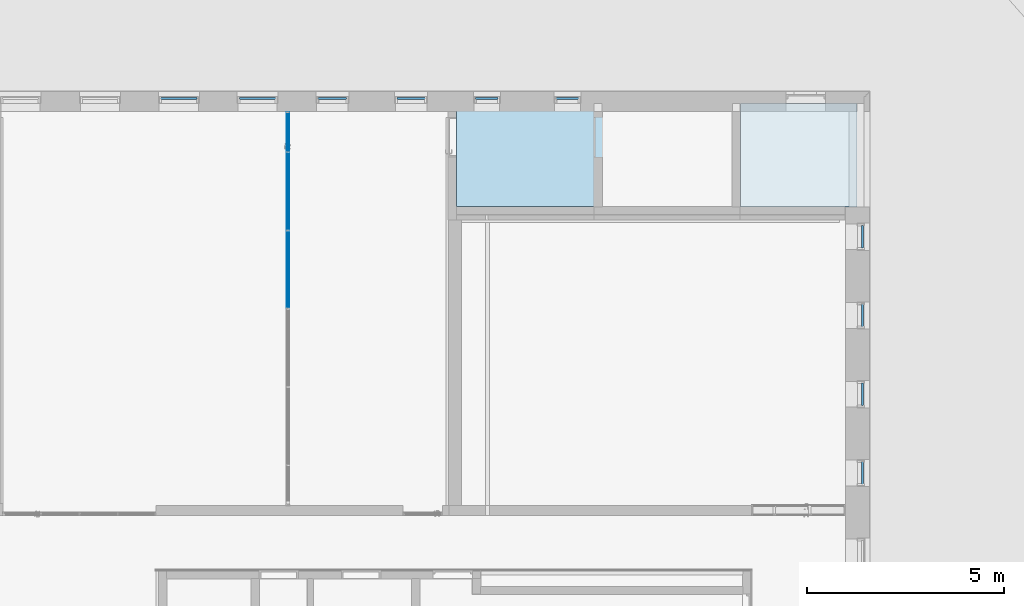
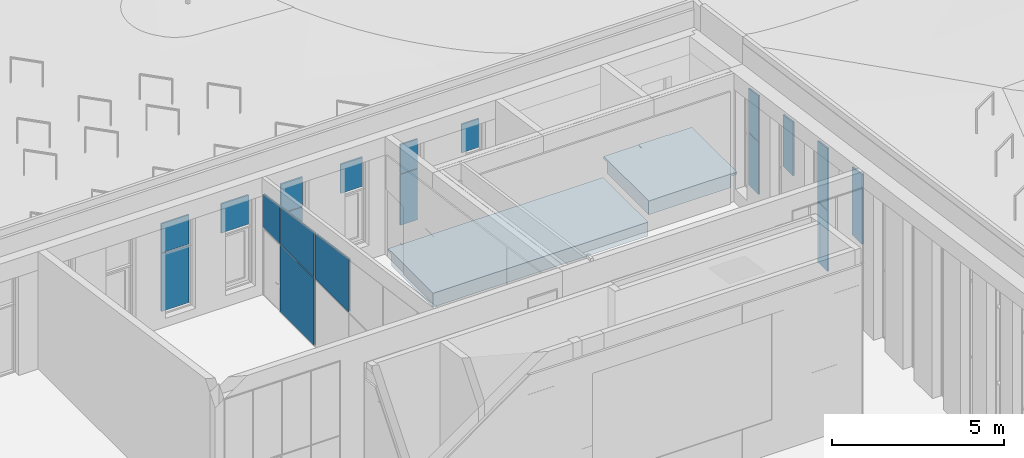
# One storey, part 104 of 246: 19 plates, 2 slabs, 11 elements without a shape of their own.
"""IFC2X3 building model written with IfcOpenShell, lengths in millimetres."""

from ifc_helpers import new_model, entity, si_unit, converted_unit, derived_unit, money_unit, direction, frame, origin_with_axes, place, context, subcontext, project, spatial, faceted_brep, material, material_list, type_object, element, aggregate, save


model = new_model("IFC2X3")

# Units and contexts
model_context = context("Model", 3, precision=0.01, world=origin_with_axes(), true_north=direction((0.0, 1.0)))
body_context = subcontext(model_context, "Body", "Model", "MODEL_VIEW")
ifc_project = project(units=[si_unit("LENGTHUNIT", "METRE", prefix="MILLI"), si_unit("AREAUNIT", "SQUARE_METRE"), si_unit("VOLUMEUNIT", "CUBIC_METRE"), converted_unit("PLANEANGLEUNIT", "DEGREE", entity("IfcPlaneAngleMeasure", 0.0174532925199), si_unit("PLANEANGLEUNIT", "RADIAN"), dimensions=[0, 0, 0, 0, 0, 0, 0]), si_unit("SOLIDANGLEUNIT", "STERADIAN"), money_unit("EUR"), converted_unit("TIMEUNIT", "Year", entity("IfcTimeMeasure", 31556926.0), si_unit("TIMEUNIT", "SECOND"), dimensions=[0, 0, 1, 0, 0, 0, 0]), si_unit("MASSUNIT", "GRAM", prefix="KILO"), si_unit("THERMODYNAMICTEMPERATUREUNIT", "DEGREE_CELSIUS"), si_unit("LUMINOUSINTENSITYUNIT", "LUMEN"), si_unit("ENERGYUNIT", "JOULE", prefix="MEGA"), derived_unit("THERMALCONDUCTANCEUNIT", [(si_unit("POWERUNIT", "WATT"), 1), (si_unit("LENGTHUNIT", "METRE"), -1), (si_unit("THERMODYNAMICTEMPERATUREUNIT", "KELVIN"), -1)]), derived_unit("SPECIFICHEATCAPACITYUNIT", [(si_unit("ENERGYUNIT", "JOULE"), 1), (si_unit("MASSUNIT", "GRAM", prefix="KILO"), -1), (si_unit("THERMODYNAMICTEMPERATUREUNIT", "KELVIN"), -1)]), derived_unit("MASSDENSITYUNIT", [(si_unit("MASSUNIT", "GRAM", prefix="KILO"), 1), (si_unit("VOLUMEUNIT", "CUBIC_METRE"), -1)])], contexts=[model_context])

# Site, building, storey
site_placement = place(None, origin_with_axes())
site = spatial("IfcSite", under=ifc_project, at=site_placement, Name="L.Koidula tn 11b", CompositionType="ELEMENT")
building_placement = place(site_placement, origin_with_axes())
building = spatial("IfcBuilding", under=site, at=building_placement, Name="Rakvere Riigigümnaasium", CompositionType="ELEMENT")
storey_placement = place(building_placement, origin_with_axes())
storey = spatial("IfcBuildingStorey", under=building, at=storey_placement, Name="1.korrus 0,00", CompositionType="ELEMENT", Elevation=0.0)

# Curtain wall, plate
curtain_wall_type = type_object("IfcCurtainWallType", Name="Curtain Wall Type", PredefinedType="NOTDEFINED")
curtain_wall_1_placement = place(storey_placement, frame((39944.5199736, 71934.4519938, 599.999957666), z_axis=(0.0, 0.0, 1.0), x_axis=(1.0, 0.0, 0.0)))
curtain_wall_1 = element("IfcCurtainWall", 1, at=curtain_wall_1_placement, inside=storey, type_object=curtain_wall_type, Name="KLF-08-10")
ifc_material_1 = material(Name="Klaaspakett 3x")
plate_type_1 = type_object("IfcPlateType", Name="Distinct Panel 576 x 1011 x 54", PredefinedType="CURTAIN_PANEL")
plate_1_placement = place(curtain_wall_1_placement, frame((0.0, 0.0, 2349.83093543), z_axis=(0.0, 0.0, 1.0), x_axis=(-1.0, 0.0, 0.0)))
plate_1 = element("IfcPlate", 2, at=plate_1_placement, type_object=plate_type_1, material=ifc_material_1, Name="KLF-08-10-Klaas", ObjectType="CURTAIN_PANEL", context=body_context, shape_type="Brep", body=[
    faceted_brep([(-287.999983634, 27.0, 492.830766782), (-287.999983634, -27.0, 492.830766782), (287.999973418, -27.0, 492.830766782), (287.999973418, 27.0, 492.830766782), (-287.999983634, 27.0, -517.830762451), (-287.999983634, -27.0, -517.830762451), (287.999989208, -27.0, -517.830762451), (287.999989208, 27.0, -517.830762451)], [[[0, 1, 2, 3]], [[4, 5, 1, 0]], [[1, 5, 6, 2]], [[3, 2, 6, 7]], [[0, 3, 7, 4]], [[7, 6, 5, 4]]]),
])
aggregate(curtain_wall_1, [plate_1])

curtain_wall_2_placement = place(storey_placement, frame((35969.5353612, 71934.4519938, 500.0), z_axis=(0.0, 0.0, 1.0), x_axis=(1.0, 0.0, 0.0)))
curtain_wall_2 = element("IfcCurtainWall", 3, at=curtain_wall_2_placement, inside=storey, type_object=curtain_wall_type, Name="KLF-08-08")
plate_type_2 = type_object("IfcPlateType", Name="Distinct Panel 726 x 1031 x 54", PredefinedType="CURTAIN_PANEL")
plate_2_placement = place(curtain_wall_2_placement, frame((0.0, 0.0, 2440.0000619), z_axis=(0.0, 0.0, 1.0), x_axis=(-1.0, 0.0, 0.0)))
plate_2 = element("IfcPlate", 4, at=plate_2_placement, type_object=plate_type_2, material=ifc_material_1, Name="KLF-08-08-Klaasid", ObjectType="CURTAIN_PANEL", context=body_context, shape_type="Brep", body=[
    faceted_brep([(-363.000065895, 27.0, 502.99994902), (-363.000065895, -27.0, 502.99994902), (363.000048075, -27.0, 502.99994902), (363.000048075, 27.0, 502.99994902), (-363.000065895, 27.0, -527.999955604), (-363.000065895, -27.0, -527.999955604), (363.000064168, -27.0, -527.999955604), (363.000064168, 27.0, -527.999955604)], [[[0, 1, 2, 3]], [[4, 5, 1, 0]], [[1, 5, 6, 2]], [[3, 2, 6, 7]], [[0, 3, 7, 4]], [[7, 6, 5, 4]]]),
])
aggregate(curtain_wall_2, [plate_2])

curtain_wall_3_placement = place(storey_placement, frame((33969.5426693, 71934.5046172, 450.0), z_axis=(0.0, 0.0, 1.0), x_axis=(1.0, 0.0, 0.0)))
curtain_wall_3 = element("IfcCurtainWall", 5, at=curtain_wall_3_placement, inside=storey, type_object=curtain_wall_type, Name="KLF-08-07")
plate_3_placement = place(curtain_wall_3_placement, frame((0.0, 0.0, 2489.830821), z_axis=(0.0, 0.0, 1.0), x_axis=(-1.0, 0.0, 0.0)))
plate_3 = element("IfcPlate", 6, at=plate_3_placement, type_object=plate_type_2, material=ifc_material_1, Name="KLF-08-07-Klaasid", ObjectType="CURTAIN_PANEL", context=body_context, shape_type="Brep", body=[
    faceted_brep([(-363.00355807, 27.0, 502.830714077), (-363.00355807, -27.0, 502.830714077), (363.003552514, -27.0, 502.830714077), (363.003552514, 27.0, 502.830714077), (-363.00355807, 27.0, -527.830720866), (-363.00355807, -27.0, -527.830720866), (363.003568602, -27.0, -527.830720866), (363.003568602, 27.0, -527.830720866)], [[[0, 1, 2, 3]], [[4, 5, 1, 0]], [[1, 5, 6, 2]], [[3, 2, 6, 7]], [[0, 3, 7, 4]], [[7, 6, 5, 4]]]),
])

curtain_wall_4_placement = place(storey_placement, frame((32069.763958, 71934.4519938, 400.0), z_axis=(0.0, 0.0, 1.0), x_axis=(1.0, 0.0, 0.0)))
curtain_wall_4 = element("IfcCurtainWall", 7, at=curtain_wall_4_placement, inside=storey, type_object=curtain_wall_type, Name="KLF-08-06")
plate_type_3 = type_object("IfcPlateType", Name="Distinct Panel 926 x 1031 x 54", PredefinedType="CURTAIN_PANEL")
plate_4_placement = place(curtain_wall_4_placement, frame((0.0, 0.0, 2540.00004522), z_axis=(0.0, 0.0, 1.0), x_axis=(-1.0, 0.0, 0.0)))
plate_4 = element("IfcPlate", 8, at=plate_4_placement, type_object=plate_type_3, material=ifc_material_1, Name="KLF-08-06-Klaasid", ObjectType="CURTAIN_PANEL", context=body_context, shape_type="Brep", body=[
    faceted_brep([(-463.00769297, 27.0, 502.999966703), (-463.00769297, -27.0, 502.999966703), (463.007698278, -27.0, 502.999966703), (463.007698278, 27.0, 502.999966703), (-463.00769297, 27.0, -527.999974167), (-463.00769297, -27.0, -527.999974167), (463.007698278, -27.0, -527.999974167), (463.007698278, 27.0, -527.999974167)], [[[0, 1, 2, 3]], [[4, 5, 1, 0]], [[1, 5, 6, 2]], [[3, 2, 6, 7]], [[0, 3, 7, 4]], [[7, 6, 5, 4]]]),
])
aggregate(curtain_wall_4, [plate_4])

curtain_wall_5_placement = place(storey_placement, frame((30069.5242165, 71934.4519938, 300.0), z_axis=(0.0, 0.0, 1.0), x_axis=(1.0, 0.0, 0.0)))
curtain_wall_5 = element("IfcCurtainWall", 9, at=curtain_wall_5_placement, inside=storey, type_object=curtain_wall_type, Name="KLF-08-05")
plate_5_placement = place(curtain_wall_5_placement, frame((0.0, 0.0, 2640.0000344), z_axis=(0.0, 0.0, 1.0), x_axis=(-1.0, 0.0, 0.0)))
plate_5 = element("IfcPlate", 10, at=plate_5_placement, type_object=plate_type_3, material=ifc_material_1, Name="KLF-08-05-Klaasid", ObjectType="CURTAIN_PANEL", context=body_context, shape_type="Brep", body=[
    faceted_brep([(-462.988781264, 27.0, 502.999956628), (-462.988781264, -27.0, 502.999956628), (462.988788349, -27.0, 502.999956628), (462.988788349, 27.0, 502.999956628), (-462.988781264, 27.0, -527.999963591), (-462.988781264, -27.0, -527.999963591), (462.988788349, -27.0, -527.999963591), (462.988788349, 27.0, -527.999963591)], [[[0, 1, 2, 3]], [[4, 5, 1, 0]], [[1, 5, 6, 2]], [[3, 2, 6, 7]], [[0, 3, 7, 4]], [[7, 6, 5, 4]]]),
])

curtain_wall_6_placement = place(storey_placement, frame((47433.9999935, 62420.4545024, 99.9999847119), z_axis=(0.0, 0.0, 1.0), x_axis=(1.0, 0.0, 0.0)))
curtain_wall_6 = element("IfcCurtainWall", 11, at=curtain_wall_6_placement, inside=storey, type_object=curtain_wall_type, Name="KLF-07-11")
plate_type_4 = type_object("IfcPlateType", Name="Distinct Panel 576 x 2391 x 54", PredefinedType="CURTAIN_PANEL")
plate_6_placement = place(curtain_wall_6_placement, frame((0.0, 1.10891278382e-05, 3540.48146483), z_axis=(0.0, 0.0, 1.0), x_axis=(0.0, 1.0, 0.0)))
plate_6 = element("IfcPlate", 12, at=plate_6_placement, type_object=plate_type_4, material=ifc_material_1, Name="KLF-07-11-Klaasid", ObjectType="CURTAIN_PANEL", context=body_context, shape_type="Brep", body=[
    faceted_brep([(-288.000150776, 27.0, 1244.11188465), (-288.000150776, -27.0, 1244.11188465), (288.000129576, -27.0, 1162.10477287), (288.000129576, 27.0, 1162.10477287), (-288.000150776, 27.0, -1228.48144763), (-288.000150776, -27.0, -1228.48144763), (288.000167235, -27.0, -1228.48144763), (288.000167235, 27.0, -1228.48144763)], [[[0, 1, 2, 3]], [[4, 5, 1, 0]], [[1, 5, 6, 2]], [[3, 2, 6, 7]], [[0, 3, 7, 4]], [[7, 6, 5, 4]]]),
])
aggregate(curtain_wall_6, [plate_6])

# Curtain wall, plates
curtain_wall_7_placement = place(storey_placement, frame((47433.9999935, 64420.454563, 200.0), z_axis=(0.0, 0.0, 1.0), x_axis=(1.0, 0.0, 0.0)))
curtain_wall_7 = element("IfcCurtainWall", 13, at=curtain_wall_7_placement, inside=storey, type_object=curtain_wall_type, Name="KLF-07-12")
plate_type_5 = type_object("IfcPlateType", Name="Distinct Panel 576 x 2106 x 54", PredefinedType="CURTAIN_PANEL")
plate_7_placement = place(curtain_wall_7_placement, frame((0.0, 0.0, 3298.10800074), z_axis=(0.0, 0.0, 1.0), x_axis=(0.0, 1.0, 0.0)))
plate_7 = element("IfcPlate", 14, at=plate_7_placement, type_object=plate_type_5, material=ifc_material_1, Name="KLF-07-12-Klaasid", ObjectType="CURTAIN_PANEL", context=body_context, shape_type="Brep", body=[
    faceted_brep([(-288.00016796, 27.0, 1101.73849698), (-288.00016796, -27.0, 1101.73849698), (288.000196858, -27.0, 1019.73125997), (288.000196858, 27.0, 1019.73125997), (-288.000201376, 27.0, -1086.10798896), (-288.000201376, -27.0, -1086.10798896), (288.000196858, -27.0, -1086.10798896), (288.000196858, 27.0, -1086.10798896)], [[[0, 1, 2, 3]], [[4, 5, 1, 0]], [[1, 5, 6, 2]], [[3, 2, 6, 7]], [[0, 3, 7, 4]], [[7, 6, 5, 4]]]),
])
plate_type_6 = type_object("IfcPlateType", Name="Distinct Panel 576 x 2151 x 54", PredefinedType="CURTAIN_PANEL")
plate_8_placement = place(curtain_wall_7_placement, frame((0.0, -3.10614893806e-05, 1100.0), z_axis=(0.0, 0.0, 1.0), x_axis=(0.0, 1.0, 0.0)))
plate_8 = element("IfcPlate", 15, at=plate_8_placement, type_object=plate_type_6, material=ifc_material_1, Name="KLF-07-12-Klaasid", ObjectType="CURTAIN_PANEL", context=body_context, shape_type="Brep", body=[
    faceted_brep([(-288.000165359, 27.0, 1088.0), (-288.000165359, -27.0, 1088.0), (288.000228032, -27.0, 1088.0), (288.000228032, 27.0, 1088.0), (-288.000296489, 27.0, -1063.0), (-288.000296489, -27.0, -1063.0), (288.000228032, -27.0, -1063.0), (288.000228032, 27.0, -1063.0)], [[[0, 1, 2, 3]], [[4, 5, 1, 0]], [[1, 5, 6, 2]], [[3, 2, 6, 7]], [[0, 3, 7, 4]], [[7, 6, 5, 4]]]),
])
aggregate(curtain_wall_7, [plate_7, plate_8])

# Curtain wall, plate
curtain_wall_8_placement = place(storey_placement, frame((47433.9999935, 66420.454682, 350.000073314), z_axis=(0.0, 0.0, 1.0), x_axis=(1.0, 0.0, 0.0)))
curtain_wall_8 = element("IfcCurtainWall", 16, at=curtain_wall_8_placement, inside=storey, type_object=curtain_wall_type, Name="KLF-07-13")
plate_type_7 = type_object("IfcPlateType", Name="Distinct Panel 576 x 1821 x 54", PredefinedType="CURTAIN_PANEL")
plate_9_placement = place(curtain_wall_8_placement, frame((0.0, 0.0, 3005.73440963), z_axis=(0.0, 0.0, 1.0), x_axis=(0.0, 1.0, 0.0)))
plate_9 = element("IfcPlate", 17, at=plate_9_placement, type_object=plate_type_7, material=ifc_material_1, Name="KLF-07-13-Klaasid", ObjectType="CURTAIN_PANEL", context=body_context, shape_type="Brep", body=[
    faceted_brep([(-287.999945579, 27.0, 959.364916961), (-287.999945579, -27.0, 959.364916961), (288.000052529, -27.0, 877.357818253), (288.000052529, 27.0, 877.357818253), (-288.000149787, 27.0, -943.734495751), (-288.000149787, -27.0, -943.734495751), (288.000052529, -27.0, -943.734495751), (288.000052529, 27.0, -943.734495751)], [[[0, 1, 2, 3]], [[4, 5, 1, 0]], [[1, 5, 6, 2]], [[3, 2, 6, 7]], [[0, 3, 7, 4]], [[7, 6, 5, 4]]]),
])
aggregate(curtain_wall_8, [plate_9])

# Curtain wall, plates
curtain_wall_9_placement = place(storey_placement, frame((47433.9999935, 68420.4546651, 500.0), z_axis=(0.0, 0.0, 1.0), x_axis=(1.0, 0.0, 0.0)))
curtain_wall_9 = element("IfcCurtainWall", 18, at=curtain_wall_9_placement, inside=storey, type_object=curtain_wall_type, Name="KLF-07-14")
plate_type_8 = type_object("IfcPlateType", Name="Distinct Panel 576 x 1536 x 54", PredefinedType="CURTAIN_PANEL")
plate_10_placement = place(curtain_wall_9_placement, frame((0.0, 0.0, 2713.36100601), z_axis=(0.0, 0.0, 1.0), x_axis=(0.0, 1.0, 0.0)))
plate_10 = element("IfcPlate", 19, at=plate_10_placement, type_object=plate_type_8, material=ifc_material_1, Name="KLF-07-14-Klaasid", ObjectType="CURTAIN_PANEL", context=body_context, shape_type="Brep", body=[
    faceted_brep([(-287.999952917, 27.0, 816.991467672), (-287.999952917, -27.0, 816.991467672), (288.00006258, -27.0, 734.984307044), (288.00006258, 27.0, 734.984307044), (-288.000152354, 27.0, -801.361008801), (-288.000152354, -27.0, -801.361008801), (288.00006258, -27.0, -801.361008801), (288.00006258, 27.0, -801.361008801)], [[[0, 1, 2, 3]], [[4, 5, 1, 0]], [[1, 5, 6, 2]], [[3, 2, 6, 7]], [[0, 3, 7, 4]], [[7, 6, 5, 4]]]),
])
plate_type_9 = type_object("IfcPlateType", Name="Distinct Panel 576 x 1851 x 54", PredefinedType="CURTAIN_PANEL")
plate_11_placement = place(curtain_wall_9_placement, frame((0.0, -9.89106041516e-05, 950.0), z_axis=(0.0, 0.0, 1.0), x_axis=(0.0, 1.0, 0.0)))
plate_11 = element("IfcPlate", 20, at=plate_11_placement, type_object=plate_type_9, material=ifc_material_1, Name="KLF-07-14-Klaasid", ObjectType="CURTAIN_PANEL", context=body_context, shape_type="Brep", body=[
    faceted_brep([(-288.000074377, 27.0, 938.00000149), (-288.000074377, -27.0, 938.00000149), (288.000165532, -27.0, 938.00000149), (288.000165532, 27.0, 938.00000149), (-288.000300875, 27.0, -912.999988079), (-288.000300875, -27.0, -912.999988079), (288.000193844, -27.0, -912.999988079), (288.000193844, 27.0, -912.999988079)], [[[0, 1, 2, 3]], [[4, 5, 1, 0]], [[1, 5, 6, 2]], [[3, 2, 6, 7]], [[0, 3, 7, 4]], [[7, 6, 5, 4]]]),
])
aggregate(curtain_wall_9, [plate_10, plate_11])

# Plate
plate_type_10 = type_object("IfcPlateType", Name="Distinct Panel 926 x 2051 x 54", PredefinedType="CURTAIN_PANEL")
plate_12_placement = place(curtain_wall_5_placement, frame((-1.73954006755e-06, 0.0, 1050.00003856), z_axis=(0.0, 0.0, 1.0), x_axis=(-1.0, 0.0, 0.0)))
plate_12 = element("IfcPlate", 21, at=plate_12_placement, type_object=plate_type_10, material=ifc_material_1, Name="KLF-08-05-Klaasid", ObjectType="CURTAIN_PANEL", context=body_context, shape_type="Brep", body=[
    faceted_brep([(-462.988802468, 27.0, 1038.00003365), (-462.988802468, -27.0, 1038.00003365), (462.98879037, -27.0, 1038.00003365), (462.98879037, 27.0, 1038.00003365), (-462.988771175, 27.0, -1013.00004167), (-462.988771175, -27.0, -1013.00004167), (462.98879037, -27.0, -1013.00004167), (462.98879037, 27.0, -1013.00004167)], [[[0, 1, 2, 3]], [[4, 5, 1, 0]], [[1, 5, 6, 2]], [[3, 2, 6, 7]], [[0, 3, 7, 4]], [[7, 6, 5, 4]]]),
])

aggregate(curtain_wall_5, [plate_5, plate_12])

plate_type_11 = type_object("IfcPlateType", Name="Distinct Panel 726 x 1901 x 54", PredefinedType="CURTAIN_PANEL")
plate_13_placement = place(curtain_wall_3_placement, frame((8.93983553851e-07, 0.0, 975.000051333), z_axis=(0.0, 0.0, 1.0), x_axis=(-1.0, 0.0, 0.0)))
plate_13 = element("IfcPlate", 22, at=plate_13_placement, type_object=plate_type_11, material=ifc_material_1, Name="KLF-08-07-Klaasid", ObjectType="CURTAIN_PANEL", context=body_context, shape_type="Brep", body=[
    faceted_brep([(-363.003558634, 27.0, 963.000057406), (-363.003558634, -27.0, 963.000057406), (363.003585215, -27.0, 963.000057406), (363.003585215, 27.0, 963.000057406), (-363.003587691, 27.0, -938.000062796), (-363.003587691, -27.0, -938.000062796), (363.003585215, -27.0, -938.000062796), (363.003585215, 27.0, -938.000062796)], [[[0, 1, 2, 3]], [[4, 5, 1, 0]], [[1, 5, 6, 2]], [[3, 2, 6, 7]], [[0, 3, 7, 4]], [[7, 6, 5, 4]]]),
])

aggregate(curtain_wall_3, [plate_3, plate_13])

# Curtain wall, plates
curtain_wall_10_placement = place(storey_placement, frame((37894.5353831, 71934.4519938, 550.0), z_axis=(0.0, 0.0, 1.0), x_axis=(1.0, 0.0, 0.0)))
curtain_wall_10 = element("IfcCurtainWall", 23, at=curtain_wall_10_placement, inside=storey, type_object=curtain_wall_type, Name="KLF-08-09")
plate_type_12 = type_object("IfcPlateType", Name="Distinct Panel 576 x 1031 x 54", PredefinedType="CURTAIN_PANEL")
plate_14_placement = place(curtain_wall_10_placement, frame((0.0, 0.0, 2390.00000699), z_axis=(0.0, 0.0, 1.0), x_axis=(-1.0, 0.0, 0.0)))
plate_14 = element("IfcPlate", 24, at=plate_14_placement, type_object=plate_type_12, material=ifc_material_1, Name="KLF-08-09-Klaasid", ObjectType="CURTAIN_PANEL", context=body_context, shape_type="Brep", body=[
    faceted_brep([(-288.000081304, 27.0, 502.999886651), (-288.000081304, -27.0, 502.999886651), (288.00008267, -27.0, 502.999886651), (288.00008267, 27.0, 502.999886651), (-288.000081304, 27.0, -527.999890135), (-288.000081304, -27.0, -527.999890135), (288.000098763, -27.0, -527.999890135), (288.000098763, 27.0, -527.999890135)], [[[0, 1, 2, 3]], [[4, 5, 1, 0]], [[1, 5, 6, 2]], [[3, 2, 6, 7]], [[0, 3, 7, 4]], [[7, 6, 5, 4]]]),
])
plate_type_13 = type_object("IfcPlateType", Name="Distinct Panel 576 x 1801 x 54", PredefinedType="CURTAIN_PANEL")
plate_15_placement = place(curtain_wall_10_placement, frame((-9.22042175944e-06, 0.0, 925.000062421), z_axis=(0.0, 0.0, 1.0), x_axis=(-1.0, 0.0, 0.0)))
plate_15 = element("IfcPlate", 25, at=plate_15_placement, type_object=plate_type_13, material=ifc_material_1, Name="KLF-08-09-Klaasid", ObjectType="CURTAIN_PANEL", context=body_context, shape_type="Brep", body=[
    faceted_brep([(-288.000106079, 27.0, 913.000070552), (-288.000106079, -27.0, 913.000070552), (288.000082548, -27.0, 913.000070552), (288.000082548, 27.0, 913.000070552), (-288.000078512, 27.0, -888.000059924), (-288.000078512, -27.0, -888.000059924), (288.000082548, -27.0, -888.000059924), (288.000082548, 27.0, -888.000059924)], [[[0, 1, 2, 3]], [[4, 5, 1, 0]], [[1, 5, 6, 2]], [[3, 2, 6, 7]], [[0, 3, 7, 4]], [[7, 6, 5, 4]]]),
])
aggregate(curtain_wall_10, [plate_14, plate_15])

curtain_wall_11_placement = place(storey_placement, frame((32835.0202258, 67589.2016838, 0.0), z_axis=(0.0, 0.0, 1.0), x_axis=(1.0, 0.0, 0.0)))
curtain_wall_11 = element("IfcCurtainWall", 26, at=curtain_wall_11_placement, inside=storey, type_object=curtain_wall_type, Name="SKLF-02")
ifc_material_2 = material(Name="VKR-05_Klaas")
plate_type_14 = type_object("IfcPlateType", Name="Siseklaasfassaad - Klaas-Doubleline30 1953 x 1307 x 17", PredefinedType="CURTAIN_PANEL")
plate_16_placement = place(curtain_wall_11_placement, frame((0.0, 1987.5, 3139.06091672), z_axis=(0.0, 0.0, 1.0), x_axis=(0.0, 1.0, 0.0)))
plate_16 = element("IfcPlate", 27, at=plate_16_placement, type_object=plate_type_14, material=ifc_material_2, Name="Panel-Siseklaasf-025", ObjectType="CURTAIN_PANEL", context=body_context, shape_type="Brep", body=[
    faceted_brep([(-976.74998156, -37.0, 862.954447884), (976.74998156, -37.0, 584.864937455), (976.74998156, -25.0, 584.864937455), (-976.74998156, -25.0, 862.954447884), (-976.74998156, -37.0, -722.060898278), (976.74998156, -37.0, -722.060898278), (976.74998156, -25.0, -722.060898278), (-976.74998156, -25.0, -722.060898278)], [[[0, 1, 2, 3]], [[0, 4, 5, 1]], [[1, 5, 6, 2]], [[3, 2, 6, 7]], [[4, 0, 3, 7]], [[5, 4, 7, 6]]]),
    faceted_brep([(-976.74998156, 15.0, 862.954447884), (976.74998156, 15.0, 584.864937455), (976.74998156, 27.0, 584.864937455), (-976.74998156, 27.0, 862.954447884), (-976.74998156, 15.0, -722.060898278), (976.74998156, 15.0, -722.060898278), (976.74998156, 27.0, -722.060898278), (-976.74998156, 27.0, -722.060898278)], [[[0, 1, 2, 3]], [[0, 4, 5, 1]], [[1, 5, 6, 2]], [[3, 2, 6, 7]], [[4, 0, 3, 7]], [[5, 4, 7, 6]]]),
])
plate_type_15 = type_object("IfcPlateType", Name="Siseklaasfassaad - Klaas-Doubleline30 1970 x 2368 x 17", PredefinedType="CURTAIN_PANEL")
plate_17_placement = place(curtain_wall_11_placement, frame((0.0, 1987.5, 1200.0), z_axis=(0.0, 0.0, 1.0), x_axis=(0.0, 1.0, 0.0)))
plate_17 = element("IfcPlate", 28, at=plate_17_placement, type_object=plate_type_15, material=ifc_material_2, Name="Panel-Siseklaasf-038", ObjectType="CURTAIN_PANEL", context=body_context, shape_type="Brep", body=[
    faceted_brep([(-976.749964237, -37.0, 1182.99996424), (993.75, -37.0, 1182.99996424), (993.75, -25.0, 1182.99996424), (-976.749964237, -25.0, 1182.99996424), (-976.749964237, -37.0, -1185.0), (993.75, -37.0, -1185.0), (993.75, -25.0, -1185.0), (-976.749964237, -25.0, -1185.0)], [[[0, 1, 2, 3]], [[0, 4, 5, 1]], [[1, 5, 6, 2]], [[3, 2, 6, 7]], [[4, 0, 3, 7]], [[5, 4, 7, 6]]]),
    faceted_brep([(-976.749964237, 15.0, 1182.99996424), (993.75, 15.0, 1182.99996424), (993.75, 27.0, 1182.99996424), (-976.749964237, 27.0, 1182.99996424), (-976.749964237, 15.0, -1185.0), (993.75, 15.0, -1185.0), (993.75, 27.0, -1185.0), (-976.749964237, 27.0, -1185.0)], [[[0, 1, 2, 3]], [[0, 4, 5, 1]], [[1, 5, 6, 2]], [[3, 2, 6, 7]], [[4, 0, 3, 7]], [[5, 4, 7, 6]]]),
])
plate_type_16 = type_object("IfcPlateType", Name="Siseklaasfassaad - Klaas-Doubleline30 998 x 1162 x 17", PredefinedType="CURTAIN_PANEL")
plate_18_placement = place(curtain_wall_11_placement, frame((0.0, 3496.25, 3031.67224359), z_axis=(0.0, 0.0, 1.0), x_axis=(0.0, 1.0, 0.0)))
plate_18 = element("IfcPlate", 29, at=plate_18_placement, type_object=plate_type_16, material=ifc_material_2, Name="Panel-Siseklaasf-024", ObjectType="CURTAIN_PANEL", context=body_context, shape_type="Brep", body=[
    faceted_brep([(-497.999989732, -37.0, 687.413563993), (499.999993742, -37.0, 545.343758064), (499.999993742, -25.0, 545.343758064), (-497.999989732, -25.0, 687.413563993), (-497.999989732, -37.0, -616.672237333), (499.999993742, -37.0, -616.672237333), (499.999993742, -25.0, -616.672237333), (-497.999989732, -25.0, -616.672237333)], [[[0, 1, 2, 3]], [[0, 4, 5, 1]], [[1, 5, 6, 2]], [[3, 2, 6, 7]], [[4, 0, 3, 7]], [[5, 4, 7, 6]]]),
    faceted_brep([(-497.999989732, 15.0, 687.413563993), (499.999993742, 15.0, 545.343758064), (499.999993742, 27.0, 545.343758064), (-497.999989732, 27.0, 687.413563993), (-497.999989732, 15.0, -616.672237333), (499.999993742, 15.0, -616.672237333), (499.999993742, 27.0, -616.672237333), (-497.999989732, 27.0, -616.672237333)], [[[0, 1, 2, 3]], [[0, 4, 5, 1]], [[1, 5, 6, 2]], [[3, 2, 6, 7]], [[4, 0, 3, 7]], [[5, 4, 7, 6]]]),
])
plate_type_17 = type_object("IfcPlateType", Name="Siseklaasfassaad - Klaas-Doubleline30 1953 x 1590 x 17", PredefinedType="CURTAIN_PANEL")
plate_19_placement = place(curtain_wall_11_placement, frame((0.0, 0.0, 3280.52569276), z_axis=(0.0, 0.0, 1.0), x_axis=(0.0, 1.0, 0.0)))
plate_19 = element("IfcPlate", 30, at=plate_19_placement, type_object=plate_type_17, material=ifc_material_2, Name="Panel-Siseklaasf-026", ObjectType="CURTAIN_PANEL", context=body_context, shape_type="Brep", body=[
    faceted_brep([(-976.74998156, -37.0, 1004.41922077), (976.74998156, -37.0, 726.329710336), (976.74998156, -25.0, 726.329710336), (-976.74998156, -25.0, 1004.41922077), (-976.74998156, -37.0, -863.525674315), (976.74998156, -37.0, -863.525674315), (976.74998156, -25.0, -863.525674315), (-976.74998156, -25.0, -863.525674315)], [[[0, 1, 2, 3]], [[0, 4, 5, 1]], [[1, 5, 6, 2]], [[3, 2, 6, 7]], [[4, 0, 3, 7]], [[5, 4, 7, 6]]]),
    faceted_brep([(-976.74998156, 15.0, 1004.41922077), (976.74998156, 15.0, 726.329710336), (976.74998156, 27.0, 726.329710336), (-976.74998156, 27.0, 1004.41922077), (-976.74998156, 15.0, -863.525674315), (976.74998156, 15.0, -863.525674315), (976.74998156, 27.0, -863.525674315), (-976.74998156, 27.0, -863.525674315)], [[[0, 1, 2, 3]], [[0, 4, 5, 1]], [[1, 5, 6, 2]], [[3, 2, 6, 7]], [[4, 0, 3, 7]], [[5, 4, 7, 6]]]),
])
aggregate(curtain_wall_11, [plate_16, plate_17, plate_18, plate_19])

# Slabs
ifc_material_3 = material(Name="Parkett")
ifc_material_4 = material(Name="Betoon element / plaat")
ifc_material_5 = material(Name="Soojustus - EPS")
ifc_material_6 = material(Name="Killustik")
ifc_material_list_1 = material_list([ifc_material_3, ifc_material_4, ifc_material_5, ifc_material_5, ifc_material_6])
slab_type_1 = type_object("IfcSlabType", Name="PP-01 490", PredefinedType="NOTDEFINED")
slab_1_placement = place(storey_placement, frame((44339.5354275, 71800.4516838, 750.0), z_axis=(0.0, 0.0, 1.0), x_axis=(1.0, 0.0, 0.0)))
element("IfcSlab", 31, at=slab_1_placement, inside=storey, type_object=slab_type_1, material=ifc_material_list_1, Name="Põrand pinnasel", PredefinedType="NOTDEFINED", context=body_context, shape_type="Brep", body=[
    faceted_brep([(2659.49942555, -2620.02038252, 0.0), (2659.49942555, -2621.32038252, 0.0), (2660.46456602, -2621.32038252, 0.0), (2660.46456602, -2620.02038252, 0.0), (2760.46456602, -2620.02038252, 0.0), (2760.46456602, -200.0, 0.0), (2160.46456602, -200.0, 0.0), (2160.46456602, 0.0, 0.0), (1160.46456602, 0.0, 0.0), (1160.46456602, -200.0, 0.0), (0.0, -200.0, 0.0), (0.0, -2620.02038252, 0.0), (2659.49942555, -2620.02038252, -10.0), (2659.49942555, -2621.32038252, -10.0), (2660.46456602, -2621.32038252, -10.0), (2660.46456602, -2620.02038252, -10.0), (2760.46456602, -2620.02038252, -10.0), (2760.46456602, -200.0, -10.0), (2160.46456602, -200.0, -10.0), (2160.46456602, 0.0, -10.0), (1160.46456602, 0.0, -10.0), (1160.46456602, -200.0, -10.0), (0.0, -200.0, -10.0), (0.0, -2620.02038252, -10.0)], [[[0, 1, 2, 3, 4, 5, 6, 7, 8, 9, 10, 11]], [[1, 0, 12, 13]], [[1, 13, 14, 2]], [[3, 2, 14, 15]], [[16, 4, 3, 15]], [[4, 16, 17, 5]], [[5, 17, 18, 6]], [[19, 7, 6, 18]], [[20, 8, 7, 19]], [[9, 8, 20, 21]], [[10, 9, 21, 22]], [[23, 11, 10, 22]], [[0, 11, 23, 12]], [[12, 23, 22, 21, 20, 19, 18, 17, 16, 15, 14, 13]]]),
    faceted_brep([(0.0, 0.0, -90.0), (0.0, -2621.32038252, -90.0), (0.0, -2621.32038252, -10.0), (0.0, 0.0, -10.0), (2960.46456602, 0.0, -90.0), (2960.46456602, -2621.32038252, -90.0), (2960.46456602, -2621.32038252, -10.0), (2960.46456602, 0.0, -10.0)], [[[0, 1, 2, 3]], [[1, 0, 4, 5]], [[1, 5, 6, 2]], [[7, 3, 2, 6]], [[4, 0, 3, 7]], [[5, 4, 7, 6]]]),
    faceted_brep([(2659.49942555, -2620.02038252, -90.0), (2659.49942555, -2621.32038252, -90.0), (2660.46456602, -2621.32038252, -90.0), (2660.46456602, -2620.02038252, -90.0), (2760.46456602, -2620.02038252, -90.0), (2760.46456602, -200.0, -90.0), (0.0, -200.0, -90.0), (0.0, -2620.02038252, -90.0), (2659.49942555, -2620.02038252, -190.0), (2659.49942555, -2621.32038252, -190.0), (2660.46456602, -2621.32038252, -190.0), (2660.46456602, -2620.02038252, -190.0), (2760.46456602, -2620.02038252, -190.0), (2760.46456602, -200.0, -190.0), (0.0, -200.0, -190.0), (0.0, -2620.02038252, -190.0)], [[[0, 1, 2, 3, 4, 5, 6, 7]], [[1, 0, 8, 9]], [[1, 9, 10, 2]], [[3, 2, 10, 11]], [[12, 4, 3, 11]], [[4, 12, 13, 5]], [[5, 13, 14, 6]], [[15, 7, 6, 14]], [[0, 7, 15, 8]], [[8, 15, 14, 13, 12, 11, 10, 9]]]),
    faceted_brep([(2659.49942555, -2620.02038252, -190.0), (2659.49942555, -2621.32038252, -190.0), (2660.46456602, -2621.32038252, -190.0), (2660.46456602, -2620.02038252, -190.0), (2760.46456602, -2620.02038252, -190.0), (2760.46456602, -200.0, -190.0), (0.0, -200.0, -190.0), (0.0, -2620.02038252, -190.0), (2659.49942555, -2620.02038252, -290.0), (2659.49942555, -2621.32038252, -290.0), (2660.46456602, -2621.32038252, -290.0), (2660.46456602, -2620.02038252, -290.0), (2760.46456602, -2620.02038252, -290.0), (2760.46456602, -200.0, -290.0), (0.0, -200.0, -290.0), (0.0, -2620.02038252, -290.0)], [[[0, 1, 2, 3, 4, 5, 6, 7]], [[1, 0, 8, 9]], [[1, 9, 10, 2]], [[3, 2, 10, 11]], [[12, 4, 3, 11]], [[4, 12, 13, 5]], [[5, 13, 14, 6]], [[15, 7, 6, 14]], [[0, 7, 15, 8]], [[8, 15, 14, 13, 12, 11, 10, 9]]]),
    faceted_brep([(2659.49942555, -2620.02038252, -290.0), (2659.49942555, -2621.32038252, -290.0), (2660.46456602, -2621.32038252, -290.0), (2660.46456602, -2620.02038252, -290.0), (2760.46456602, -2620.02038252, -290.0), (2760.46456602, -200.0, -290.0), (0.0, -200.0, -290.0), (0.0, -200.01942999, -290.0), (0.499421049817, -200.019533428, -290.0), (0.0, -2611.34212964, -290.0), (0.0, -2620.02038252, -290.0), (2659.49942555, -2620.02038252, -490.0), (2659.49942555, -2621.32038252, -490.0), (2660.46456602, -2621.32038252, -490.0), (2660.46456602, -2620.02038252, -490.0), (2760.46456602, -2620.02038252, -490.0), (2760.46456602, -200.0, -490.0), (0.0, -200.0, -490.0), (0.0, -200.01942999, -490.0), (0.499421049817, -200.019533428, -490.0), (0.0, -2611.34212964, -490.0), (0.0, -2620.02038252, -490.0)], [[[0, 1, 2, 3, 4, 5, 6, 7, 8, 9, 10]], [[1, 0, 11, 12]], [[1, 12, 13, 2]], [[14, 3, 2, 13]], [[14, 15, 4, 3]], [[5, 4, 15, 16]], [[17, 6, 5, 16]], [[7, 6, 17, 18]], [[7, 18, 19, 8]], [[8, 19, 20, 9]], [[21, 10, 9, 20]], [[0, 10, 21, 11]], [[11, 21, 20, 19, 18, 17, 16, 15, 14, 13, 12]]]),
])
ifc_material_7 = material(Name="Betoon - pealevalu")
ifc_material_list_2 = material_list([ifc_material_7, ifc_material_4, ifc_material_5, ifc_material_5, ifc_material_6])
slab_type_2 = type_object("IfcSlabType", Name="PP-01-5 490", PredefinedType="NOTDEFINED")
slab_2_placement = place(storey_placement, frame((37129.9971542, 69190.4313013, 0.0), z_axis=(0.0, 0.0, 1.0), x_axis=(1.0, 0.0, 0.0)))
element("IfcSlab", 32, at=slab_2_placement, inside=storey, type_object=slab_type_2, material=ifc_material_list_2, Name="Põrand pinnasel", PredefinedType="NOTDEFINED", context=body_context, shape_type="Brep", body=[
    faceted_brep([(7200.03769882, 0.0, -10.0), (7200.03769882, 0.0, 0.0), (0.0, 0.0, 0.0), (0.0, 0.0, -10.0), (7200.03769882, 2610.02049987, -10.0), (7200.03769882, 2610.02049987, 0.0), (0.0, 2610.02049987, 0.0), (0.0, 2610.02049987, -10.0)], [[[0, 1, 2, 3]], [[4, 5, 1, 0]], [[2, 1, 5, 6]], [[3, 2, 6, 7]], [[3, 7, 4, 0]], [[7, 6, 5, 4]]]),
    faceted_brep([(0.0, 0.0, -90.0), (7200.03769882, 0.0, -90.0), (7200.03769882, 0.0, -10.0), (0.0, 0.0, -10.0), (0.0, 2610.02049987, -90.0), (7200.03769882, 2610.02049987, -90.0), (7200.03769882, 2610.02049987, -10.0), (0.0, 2610.02049987, -10.0)], [[[0, 1, 2, 3]], [[1, 0, 4, 5]], [[1, 5, 6, 2]], [[7, 3, 2, 6]], [[4, 0, 3, 7]], [[5, 4, 7, 6]]]),
    faceted_brep([(7200.03769882, 2410.02038252, -190.0), (7200.03769882, 2410.02038252, -90.0), (7200.03769882, 0.0, -90.0), (7200.03769882, 0.0, -190.0), (0.0, 2410.02038252, -90.0), (0.0, 2410.02038252, -190.0), (0.0, 0.0, -90.0), (0.0, 0.0, -190.0)], [[[0, 1, 2, 3]], [[4, 1, 0, 5]], [[1, 4, 6, 2]], [[7, 3, 2, 6]], [[5, 0, 3, 7]], [[4, 5, 7, 6]]]),
    faceted_brep([(7200.03769882, 2410.02038252, -290.0), (7200.03769882, 2410.02038252, -190.0), (7200.03769882, 0.0, -190.0), (7200.03769882, 0.0, -290.0), (0.0, 2410.02038252, -190.0), (0.0, 2410.02038252, -290.0), (0.0, 0.0, -190.0), (0.0, 0.0, -290.0)], [[[0, 1, 2, 3]], [[4, 1, 0, 5]], [[1, 4, 6, 2]], [[7, 3, 2, 6]], [[5, 0, 3, 7]], [[4, 5, 7, 6]]]),
    faceted_brep([(7200.03769882, 2410.02038252, -490.0), (7200.03769882, 2410.02038252, -290.0), (7200.03769882, 0.0, -290.0), (7200.03769882, 0.0, -490.0), (0.0, 2410.02038252, -290.0), (0.0, 2410.02038252, -490.0), (0.0, 0.0, -290.0), (0.0, 0.0, -490.0)], [[[0, 1, 2, 3]], [[4, 1, 0, 5]], [[1, 4, 6, 2]], [[6, 7, 3, 2]], [[5, 0, 3, 7]], [[4, 5, 7, 6]]]),
])

save(model, "model.ifc")
